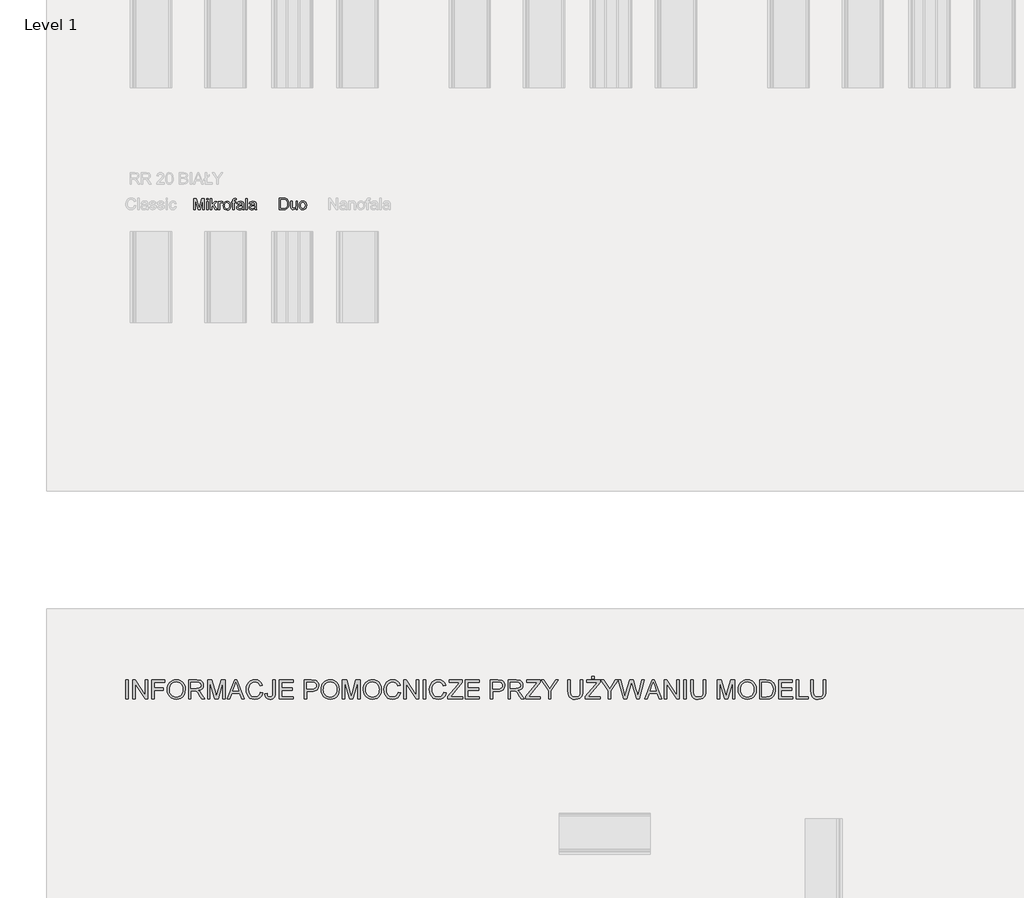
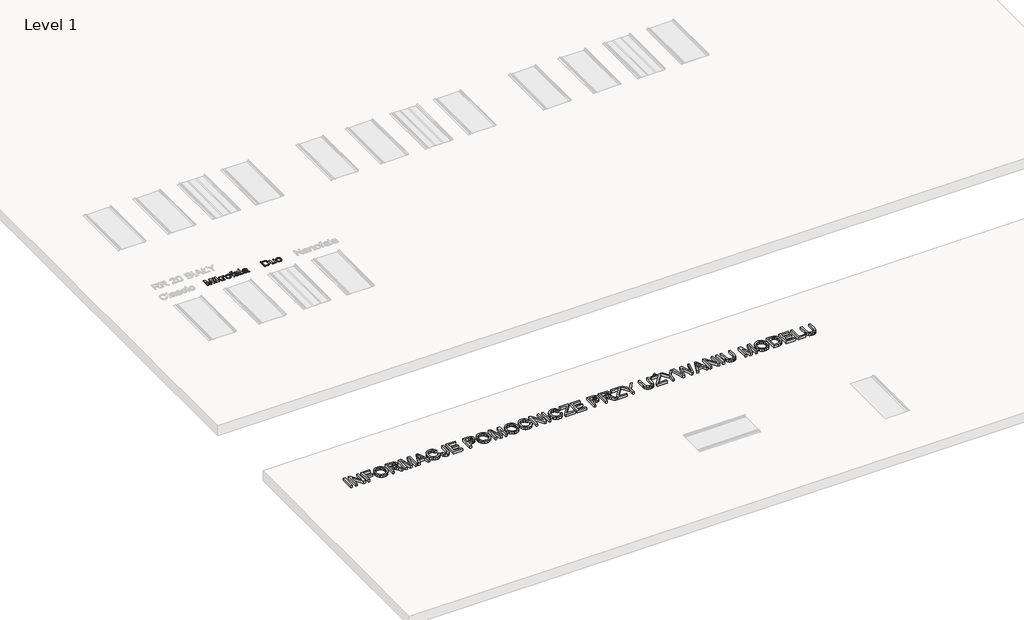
# One storey, part 8 of 22: 3 proxies.
"""IFC4 building model written with IfcOpenShell, lengths in millimetres."""

from ifc_helpers import new_model, si_unit, frame, origin, place, context, project, spatial, polyline, outline, extrude, element, save

model = new_model("IFC4")

# Units and contexts
model_context = context("Model", 3, world=origin())
ifc_project = project(units=[si_unit("LENGTHUNIT", "METRE", prefix="MILLI")], contexts=[model_context])

# Site, building, storey
site = spatial("IfcSite", under=ifc_project)
building = spatial("IfcBuilding", under=site)
storey = spatial("IfcBuildingStorey", under=building, Name="Level 1", Elevation=0.0)

# Proxies
placement = place(None, origin())
element("IfcBuildingElementProxy", 1, Name="150", ObjectType="150", at=placement, inside=storey, context=model_context, shape_type="SweptSolid", body=[
    extrude(outline(polyline([(-7895.6654959, -8175.281387), (-7895.6654959, -8024.5969218), (-7863.3654568, -8024.5969218), (-7832.4633692, -8130.8044538), (-7826.2093753, -8152.9877381), (-7819.4771347, -8128.9650438), (-7789.1636583, -8024.5969218), (-7756.7532546, -8024.5969218), (-7756.7532546, -8175.281387), (-7775.5888127, -8175.281387), (-7775.5888127, -8043.4324799), (-7813.44387, -8175.281387), (-7838.9380923, -8175.281387), (-7876.8299378, -8043.4324799), (-7876.8299378, -8175.281387), (-7895.6654959, -8175.281387)])), frame((0.0, 0.0, 600.0), z_axis=(0.0, 0.0, 1.0), x_axis=(1.0, 0.0, 0.0)), (0.0, 0.0, 1.0), 10.0),
    extrude(outline(polyline([(-7726.1454726, -8043.4324799), (-7726.1454726, -8024.5969218), (-7707.3099144, -8024.5969218), (-7707.3099144, -8043.4324799), (-7726.1454726, -8043.4324799)])), frame((0.0, 0.0, 600.0), z_axis=(0.0, 0.0, 1.0), x_axis=(1.0, 0.0, 0.0)), (0.0, 0.0, 1.0), 10.0),
    extrude(outline(polyline([(-7726.1454726, -8175.281387), (-7726.1454726, -8064.6224829), (-7707.3099144, -8064.6224829), (-7707.3099144, -8175.281387), (-7726.1454726, -8175.281387)])), frame((0.0, 0.0, 600.0), z_axis=(0.0, 0.0, 1.0), x_axis=(1.0, 0.0, 0.0)), (0.0, 0.0, 1.0), 10.0),
    extrude(outline(polyline([(-7679.0565772, -8175.281387), (-7679.0565772, -8024.5969218), (-7660.221019, -8024.5969218), (-7660.221019, -8105.5677489), (-7617.988166, -8064.6224829), (-7591.9421207, -8064.6224829), (-7634.7267968, -8106.0827837), (-7589.587676, -8175.281387), (-7611.5870193, -8175.281387), (-7648.228066, -8119.1793827), (-7660.221019, -8130.841242), (-7660.221019, -8175.281387), (-7679.0565772, -8175.281387)])), frame((0.0, 0.0, 600.0), z_axis=(0.0, 0.0, 1.0), x_axis=(1.0, 0.0, 0.0)), (0.0, 0.0, 1.0), 10.0),
    extrude(outline(polyline([(-7573.1065626, -8175.281387), (-7573.1065626, -8064.6224829), (-7556.6254492, -8064.6224829), (-7556.6254492, -8080.9932316), (-7544.9268017, -8065.9100698), (-7533.1545779, -8062.2680381), (-7514.2454433, -8068.0805736), (-7520.5362255, -8084.9663572), (-7533.7799773, -8081.1035962), (-7544.4301611, -8084.8192044), (-7551.2175839, -8095.1199003), (-7554.2710044, -8117.1192436), (-7554.2710044, -8175.281387), (-7573.1065626, -8175.281387)])), frame((0.0, 0.0, 600.0), z_axis=(0.0, 0.0, 1.0), x_axis=(1.0, 0.0, 0.0)), (0.0, 0.0, 1.0), 10.0),
    extrude(outline(polyline([(-7507.182109, -8119.9519349), (-7503.1078159, -8093.2712932), (-7490.8849367, -8074.5185085), (-7475.7833808, -8065.3306557), (-7457.7019807, -8062.2680381), (-7437.9145279, -8065.9974418), (-7422.1093977, -8077.185653), (-7411.748921, -8094.9497548), (-7408.2954287, -8118.4068306), (-7409.822139, -8137.4355268), (-7414.4022699, -8151.9208803), (-7421.902464, -8162.7688007), (-7432.1893643, -8170.8851972), (-7444.4076451, -8175.9481731), (-7457.7019807, -8177.6358318), (-7477.7285568, -8173.9202236), (-7493.5152929, -8162.7733992), (-7503.765405, -8144.6368168), (-7507.182109, -8119.9519349)]), holes=[polyline([(-7488.3465509, -8119.9151467), (-7486.1668501, -8136.9618787), (-7479.6277476, -8149.1065831), (-7469.7869042, -8156.376851), (-7457.7019807, -8158.8002736), (-7445.6722394, -8156.3630554), (-7435.8497902, -8149.0514008), (-7429.3106877, -8136.745748), (-7427.1309869, -8119.3265355), (-7429.3244833, -8102.7764443), (-7435.9049725, -8090.7972868), (-7445.7412173, -8083.5270189), (-7457.7019807, -8081.1035962), (-7469.7869042, -8083.5178218), (-7479.6277476, -8090.7604986), (-7486.1668501, -8102.8776118), (-7488.3465509, -8119.9151467)])]), frame((0.0, 0.0, 600.0), z_axis=(0.0, 0.0, 1.0), x_axis=(1.0, 0.0, 0.0)), (0.0, 0.0, 1.0), 10.0),
    extrude(outline(polyline([(-7382.3965363, -8175.281387), (-7382.3965363, -8083.458041), (-7398.8776497, -8083.458041), (-7398.8776497, -8064.6224829), (-7382.3965363, -8064.6224829), (-7382.3965363, -8053.4756584), (-7380.4099735, -8037.7670972), (-7370.7714652, -8026.5466964), (-7351.7887543, -8022.242477), (-7334.6086651, -8024.3026162), (-7337.3677801, -8041.960952), (-7348.2202989, -8041.0780352), (-7360.0844933, -8044.2050321), (-7363.5609781, -8055.8668914), (-7363.5609781, -8064.6224829), (-7342.3709752, -8064.6224829), (-7342.3709752, -8083.458041), (-7363.5609781, -8083.458041), (-7363.5609781, -8175.281387), (-7382.3965363, -8175.281387)])), frame((0.0, 0.0, 600.0), z_axis=(0.0, 0.0, 1.0), x_axis=(1.0, 0.0, 0.0)), (0.0, 0.0, 1.0), 10.0),
    extrude(outline(polyline([(-7255.2565187, -8161.1547184), (-7273.5218598, -8173.9202236), (-7293.7001872, -8177.6358318), (-7309.4409381, -8175.4009487), (-7321.0522136, -8168.6962993), (-7328.2121169, -8158.5151651), (-7330.5987514, -8145.8508274), (-7326.9935078, -8130.9516066), (-7317.5205464, -8120.1358759), (-7304.3319769, -8113.9554584), (-7288.0348045, -8111.1227671), (-7255.3668833, -8104.6480439), (-7255.2565187, -8100.4541892), (-7256.5533028, -8092.0480856), (-7260.4436549, -8086.5482498), (-7269.1440641, -8082.4647596), (-7281.2657758, -8081.1035962), (-7300.3220632, -8084.7272339), (-7309.4087484, -8097.5847096), (-7328.2443066, -8095.2302649), (-7320.0957204, -8076.8361651), (-7303.6881834, -8066.0572226), (-7278.8377546, -8062.2680381), (-7256.0106768, -8065.6157643), (-7243.1164129, -8074.0218678), (-7237.3406656, -8086.8057672), (-7236.4209606, -8103.2868806), (-7236.4209606, -8126.7209636), (-7235.4644674, -8159.4440671), (-7231.7120711, -8175.281387), (-7250.5476292, -8175.281387), (-7255.2565187, -8161.1547184)]), holes=[polyline([(-7255.2565187, -8123.4836021), (-7285.6435715, -8129.2593494), (-7301.8487734, -8132.31277), (-7309.1880192, -8137.2791769), (-7311.7631932, -8144.5264522), (-7306.1529928, -8154.7167835), (-7289.6902735, -8158.8002736), (-7270.6339861, -8154.2937192), (-7258.3467275, -8143.386018), (-7255.3668833, -8128.817891), (-7255.2565187, -8123.4836021)])]), frame((0.0, 0.0, 600.0), z_axis=(0.0, 0.0, 1.0), x_axis=(1.0, 0.0, 0.0)), (0.0, 0.0, 1.0), 10.0),
    extrude(outline(polyline([(-7210.5220681, -8175.281387), (-7210.5220681, -8024.5969218), (-7191.68651, -8024.5969218), (-7191.68651, -8175.281387), (-7210.5220681, -8175.281387)])), frame((0.0, 0.0, 600.0), z_axis=(0.0, 0.0, 1.0), x_axis=(1.0, 0.0, 0.0)), (0.0, 0.0, 1.0), 10.0),
    extrude(outline(polyline([(-7092.7998297, -8161.1547184), (-7111.0651707, -8173.9202236), (-7131.2434982, -8177.6358318), (-7146.984249, -8175.4009487), (-7158.5955245, -8168.6962993), (-7165.7554278, -8158.5151651), (-7168.1420623, -8145.8508274), (-7164.5368187, -8130.9516066), (-7155.0638574, -8120.1358759), (-7141.8752878, -8113.9554584), (-7125.5781154, -8111.1227671), (-7092.9101943, -8104.6480439), (-7092.7998297, -8100.4541892), (-7094.0966137, -8092.0480856), (-7097.9869658, -8086.5482498), (-7106.687375, -8082.4647596), (-7118.8090867, -8081.1035962), (-7137.8653741, -8084.7272339), (-7146.9520594, -8097.5847096), (-7165.7876175, -8095.2302649), (-7157.6390313, -8076.8361651), (-7141.2314943, -8066.0572226), (-7116.3810656, -8062.2680381), (-7093.5539878, -8065.6157643), (-7080.6597238, -8074.0218678), (-7074.8839765, -8086.8057672), (-7073.9642715, -8103.2868806), (-7073.9642715, -8126.7209636), (-7073.0077783, -8159.4440671), (-7069.255382, -8175.281387), (-7088.0909401, -8175.281387), (-7092.7998297, -8161.1547184)]), holes=[polyline([(-7092.7998297, -8123.4836021), (-7123.1868825, -8129.2593494), (-7139.3920844, -8132.31277), (-7146.7313302, -8137.2791769), (-7149.3065041, -8144.5264522), (-7143.6963037, -8154.7167835), (-7127.2335844, -8158.8002736), (-7108.1772971, -8154.2937192), (-7095.8900384, -8143.386018), (-7092.9101943, -8128.817891), (-7092.7998297, -8123.4836021)])]), frame((0.0, 0.0, 600.0), z_axis=(0.0, 0.0, 1.0), x_axis=(1.0, 0.0, 0.0)), (0.0, 0.0, 1.0), 10.0),
])
element("IfcBuildingElementProxy", 2, Name="150", ObjectType="150", at=placement, inside=storey, context=model_context, shape_type="SweptSolid", body=[
    extrude(outline(polyline([(-6767.5807075, -8172.1592468), (-6767.5807075, -8021.4747816), (-6715.5989816, -8021.4747816), (-6688.7068077, -8023.6452853), (-6666.5603116, -8034.4242278), (-6656.1400541, -8045.902146), (-6648.7180349, -8060.1759675), (-6644.2758598, -8076.9697805), (-6642.7951347, -8096.0076738), (-6646.8050485, -8126.4131207), (-6657.1057443, -8148.3572817), (-6670.864531, -8162.0240978), (-6688.8723546, -8169.5840728), (-6713.097384, -8172.1592468), (-6767.5807075, -8172.1592468)]), holes=[polyline([(-6748.7451493, -8153.3236886), (-6715.4150406, -8153.3236886), (-6691.1716171, -8150.6013619), (-6677.1921013, -8142.9126282), (-6665.7325771, -8124.2058287), (-6661.6306929, -8095.7133682), (-6663.6402483, -8075.1855529), (-6669.6689145, -8060.0288147), (-6678.5762573, -8049.6177542), (-6689.2218425, -8043.3269721), (-6715.9300754, -8040.3103397), (-6748.7451493, -8040.3103397), (-6748.7451493, -8153.3236886)])]), frame((0.0, 0.0, 600.0), z_axis=(0.0, 0.0, 1.0), x_axis=(1.0, 0.0, 0.0)), (0.0, 0.0, 1.0), 10.0),
    extrude(outline(polyline([(-6548.617344, -8172.1592468), (-6548.617344, -8153.1397476), (-6563.369412, -8169.1702056), (-6582.6096403, -8174.5136916), (-6600.3231584, -8170.7612952), (-6612.5368406, -8161.3435161), (-6618.1470411, -8147.4743649), (-6619.250687, -8129.9631819), (-6619.250687, -8061.5003426), (-6600.4151289, -8061.5003426), (-6600.4151289, -8121.0972259), (-6599.2746947, -8140.300666), (-6591.8250843, -8151.5762492), (-6577.7903862, -8155.6781334), (-6562.0634309, -8151.4842787), (-6551.6707645, -8140.0615427), (-6548.617344, -8119.0738749), (-6548.617344, -8061.5003426), (-6529.7817858, -8061.5003426), (-6529.7817858, -8172.1592468), (-6548.617344, -8172.1592468)])), frame((0.0, 0.0, 600.0), z_axis=(0.0, 0.0, 1.0), x_axis=(1.0, 0.0, 0.0)), (0.0, 0.0, 1.0), 10.0),
    extrude(outline(polyline([(-6508.5917829, -8116.8297947), (-6504.5174898, -8090.149153), (-6492.2946105, -8071.3963683), (-6477.1930546, -8062.2085155), (-6459.1116545, -8059.1458979), (-6439.3242017, -8062.8753016), (-6423.5190715, -8074.0635128), (-6413.1585948, -8091.8276146), (-6409.7051026, -8115.2846903), (-6411.2318129, -8134.3133865), (-6415.8119437, -8148.7987401), (-6423.3121379, -8159.6466604), (-6433.5990382, -8167.7630569), (-6445.8173189, -8172.8260329), (-6459.1116545, -8174.5136916), (-6479.1382307, -8170.7980834), (-6494.9249668, -8159.651259), (-6505.1750789, -8141.5146766), (-6508.5917829, -8116.8297947)]), holes=[polyline([(-6489.7562247, -8116.7930065), (-6487.5765239, -8133.8397385), (-6481.0374215, -8145.9844428), (-6471.1965781, -8153.2547108), (-6459.1116545, -8155.6781334), (-6447.0819133, -8153.2409152), (-6437.259464, -8145.9292605), (-6430.7203616, -8133.6236078), (-6428.5406607, -8116.2043953), (-6430.7341571, -8099.6543041), (-6437.3146463, -8087.6751466), (-6447.1508912, -8080.4048787), (-6459.1116545, -8077.981456), (-6471.1965781, -8080.3956816), (-6481.0374215, -8087.6383584), (-6487.5765239, -8099.7554716), (-6489.7562247, -8116.7930065)])]), frame((0.0, 0.0, 600.0), z_axis=(0.0, 0.0, 1.0), x_axis=(1.0, 0.0, 0.0)), (0.0, 0.0, 1.0), 10.0),
])
element("IfcBuildingElementProxy", 3, Name="250", ObjectType="250", at=placement, inside=storey, context=model_context, shape_type="SweptSolid", body=[
    extrude(outline(polyline([(-8793.2713947, -14626.8895255), (-8793.2713947, -14375.7487501), (-8761.8787978, -14375.7487501), (-8761.8787978, -14626.8895255), (-8793.2713947, -14626.8895255)])), frame((0.0, 0.0, 600.0), z_axis=(0.0, 0.0, 1.0), x_axis=(1.0, 0.0, 0.0)), (0.0, 0.0, 1.0), 50.0),
    extrude(outline(polyline([(-8699.0936039, -14626.8895255), (-8699.0936039, -14375.7487501), (-8665.493715, -14375.7487501), (-8534.2824701, -14574.7115958), (-8534.2824701, -14375.7487501), (-8502.8898732, -14375.7487501), (-8502.8898732, -14626.8895255), (-8536.4897621, -14626.8895255), (-8667.701007, -14427.8653661), (-8667.701007, -14626.8895255), (-8699.0936039, -14626.8895255)])), frame((0.0, 0.0, 600.0), z_axis=(0.0, 0.0, 1.0), x_axis=(1.0, 0.0, 0.0)), (0.0, 0.0, 1.0), 50.0),
    extrude(outline(polyline([(-8447.9528286, -14626.8895255), (-8447.9528286, -14375.7487501), (-8279.2176201, -14375.7487501), (-8279.2176201, -14407.141347), (-8416.5602316, -14407.141347), (-8416.5602316, -14481.6987647), (-8298.8379932, -14481.6987647), (-8298.8379932, -14513.0913616), (-8416.5602316, -14513.0913616), (-8416.5602316, -14626.8895255), (-8447.9528286, -14626.8895255)])), frame((0.0, 0.0, 600.0), z_axis=(0.0, 0.0, 1.0), x_axis=(1.0, 0.0, 0.0)), (0.0, 0.0, 1.0), 50.0),
    extrude(outline(polyline([(-8247.8250232, -14504.6300758), (-8245.7326943, -14475.1726914), (-8239.4557078, -14449.0952229), (-8228.9940635, -14426.3976702), (-8214.3477616, -14407.0800334), (-8196.3943538, -14391.6558143), (-8176.011392, -14380.638515), (-8153.1988762, -14374.0281354), (-8127.9568064, -14371.8246755), (-8095.0160394, -14375.9633479), (-8065.4781809, -14388.3793653), (-8040.9527146, -14408.1990078), (-8023.0491241, -14434.5485557), (-8012.1046348, -14466.1557504), (-8008.4564716, -14501.7483335), (-8012.29624, -14537.8160974), (-8023.8155449, -14569.8678162), (-8042.3782573, -14596.2633494), (-8067.3482477, -14615.3625563), (-8096.6331874, -14626.9508392), (-8128.1407474, -14630.8136001), (-8161.5873521, -14626.5446361), (-8191.2938232, -14613.7377442), (-8215.7579759, -14593.5502197), (-8233.4776254, -14567.1393581), (-8244.2381737, -14536.7507725), (-8247.8250232, -14504.6300758)]), holes=[polyline([(-8216.4324263, -14504.9366441), (-8214.8631796, -14525.7488015), (-8210.1554397, -14544.2233755), (-8202.3092065, -14560.3603659), (-8191.3244801, -14574.1597728), (-8177.9715133, -14585.2115611), (-8163.0205591, -14593.1056956), (-8146.4716175, -14597.8421763), (-8128.3246884, -14599.4210032), (-8109.8673589, -14597.8268479), (-8093.12298, -14593.0443819), (-8078.0915516, -14585.0736054), (-8064.7730737, -14573.9145182), (-8053.8688215, -14559.8238713), (-8046.0800699, -14543.0584158), (-8041.4068189, -14523.6181517), (-8039.8490686, -14501.5030788), (-8042.516213, -14473.7126597), (-8050.5176464, -14449.6930311), (-8063.6464351, -14430.0496654), (-8081.6956455, -14415.3880351), (-8103.4696611, -14406.2599631), (-8127.7728654, -14403.2172724), (-8161.5413669, -14409.0803917), (-8190.2514909, -14426.6697496), (-8201.7056501, -14440.3561095), (-8209.8871924, -14457.9627118), (-8214.7961178, -14479.4895567), (-8216.4324263, -14504.9366441)])]), frame((0.0, 0.0, 600.0), z_axis=(0.0, 0.0, 1.0), x_axis=(1.0, 0.0, 0.0)), (0.0, 0.0, 1.0), 50.0),
    extrude(outline(polyline([(-7965.2916509, -14626.8895255), (-7965.2916509, -14375.7487501), (-7857.0730306, -14375.7487501), (-7827.9873604, -14377.4425401), (-7806.8264815, -14382.5239102), (-7791.3601092, -14391.9049011), (-7779.3579592, -14406.4975535), (-7771.6554299, -14424.5927492), (-7769.0879201, -14444.4813695), (-7773.3415557, -14469.2214337), (-7786.1024624, -14489.7308549), (-7807.7538507, -14504.7680315), (-7838.6789309, -14513.0913616), (-7820.8366541, -14526.5190545), (-7795.3914828, -14558.8313564), (-7753.514249, -14626.8895255), (-7789.9958802, -14626.8895255), (-7822.6760641, -14574.8342232), (-7846.2818254, -14540.375943), (-7862.8671721, -14524.0971647), (-7877.7970497, -14518.1190822), (-7896.0072085, -14517.0154363), (-7933.899054, -14517.0154363), (-7933.899054, -14626.8895255), (-7965.2916509, -14626.8895255)]), holes=[polyline([(-7933.899054, -14485.6228393), (-7863.6335929, -14485.6228393), (-7827.7957552, -14481.1775986), (-7816.0082029, -14475.3987856), (-7807.4396181, -14466.9528281), (-7802.2202923, -14456.7364385), (-7800.480517, -14445.6463292), (-7803.7991192, -14430.3332411), (-7813.7549257, -14417.9938659), (-7830.8844311, -14409.8544767), (-7855.72413, -14407.141347), (-7933.899054, -14407.141347), (-7933.899054, -14485.6228393)])]), frame((0.0, 0.0, 600.0), z_axis=(0.0, 0.0, 1.0), x_axis=(1.0, 0.0, 0.0)), (0.0, 0.0, 1.0), 50.0),
    extrude(outline(polyline([(-7714.1508755, -14626.8895255), (-7714.1508755, -14375.7487501), (-7660.3174769, -14375.7487501), (-7608.8139976, -14552.7613035), (-7598.3906744, -14589.733444), (-7587.1702735, -14549.6956202), (-7536.6478128, -14375.7487501), (-7482.6304732, -14375.7487501), (-7482.6304732, -14626.8895255), (-7514.0230701, -14626.8895255), (-7514.0230701, -14407.141347), (-7577.1148323, -14626.8895255), (-7619.6052027, -14626.8895255), (-7682.7582786, -14407.141347), (-7682.7582786, -14626.8895255), (-7714.1508755, -14626.8895255)])), frame((0.0, 0.0, 600.0), z_axis=(0.0, 0.0, 1.0), x_axis=(1.0, 0.0, 0.0)), (0.0, 0.0, 1.0), 50.0),
    extrude(outline(polyline([(-7456.8787335, -14626.8895255), (-7356.6308899, -14375.7487501), (-7329.8981315, -14375.7487501), (-7229.7116015, -14626.8895255), (-7262.8822948, -14626.8895255), (-7291.5770904, -14548.4080332), (-7395.0745584, -14548.4080332), (-7423.769354, -14626.8895255), (-7456.8787335, -14626.8895255)]), holes=[polyline([(-7383.5475892, -14517.0154363), (-7303.0427459, -14517.0154363), (-7325.7288023, -14455.2725747), (-7343.3258244, -14407.141347), (-7358.9608092, -14449.8769721), (-7383.5475892, -14517.0154363)])]), frame((0.0, 0.0, 600.0), z_axis=(0.0, 0.0, 1.0), x_axis=(1.0, 0.0, 0.0)), (0.0, 0.0, 1.0), 50.0),
    extrude(outline(polyline([(-7019.5896686, -14537.616828), (-6988.1970717, -14545.7102319), (-7002.6824253, -14582.2914978), (-7025.4144669, -14609.0165919), (-7055.2742221, -14625.364348), (-7091.1427167, -14630.8136001), (-7127.55537, -14626.6902561), (-7156.4724277, -14614.320224), (-7178.6373179, -14594.1326995), (-7194.7934688, -14566.5568783), (-7204.6573048, -14534.1372775), (-7207.9452501, -14499.4184142), (-7204.2281091, -14462.7988272), (-7193.0766862, -14431.1763041), (-7175.073461, -14405.5548559), (-7150.8009136, -14386.9384941), (-7122.0141474, -14375.6031302), (-7090.4682663, -14371.8246755), (-7056.0483072, -14376.7144403), (-7027.591102, -14391.3837349), (-7005.985699, -14414.9281826), (-6992.1211463, -14446.4434069), (-7023.5137432, -14453.9236741), (-7034.3969189, -14431.0306841), (-7049.2654829, -14415.3267214), (-7068.3033761, -14406.2446347), (-7091.6945397, -14403.2172724), (-7118.6572242, -14406.5741956), (-7140.806786, -14416.6449652), (-7157.6143947, -14432.3719205), (-7168.5512198, -14452.6974008), (-7174.5522949, -14475.6746971), (-7176.5526532, -14499.3571005), (-7174.1844129, -14528.3584644), (-7167.0796918, -14553.4357538), (-7154.9702428, -14573.6309425), (-7137.5878186, -14587.9860045), (-7116.7488364, -14596.5622535), (-7094.2697136, -14599.4210032), (-7068.0657857, -14595.5275854), (-7046.2304564, -14583.847332), (-7029.7447445, -14564.5028705), (-7019.5896686, -14537.616828)])), frame((0.0, 0.0, 600.0), z_axis=(0.0, 0.0, 1.0), x_axis=(1.0, 0.0, 0.0)), (0.0, 0.0, 1.0), 50.0),
    extrude(outline(polyline([(-6960.7285494, -14556.3788097), (-6929.3359525, -14552.3321078), (-6926.0709998, -14575.1561199), (-6918.6060609, -14589.4268756), (-6907.2017191, -14596.9224713), (-6892.1185573, -14599.4210032), (-6880.5226102, -14598.0031247), (-6870.6281174, -14593.7494891), (-6862.994566, -14587.0509711), (-6858.1814432, -14578.2984453), (-6854.7785348, -14547.1817599), (-6854.7785348, -14375.7487501), (-6823.3859379, -14375.7487501), (-6823.3859379, -14546.6299369), (-6825.2789973, -14574.5813043), (-6830.9581756, -14595.4049581), (-6840.7530337, -14610.6184114), (-6854.9931326, -14621.7391776), (-6872.8737304, -14628.5449945), (-6893.5900853, -14630.8136001), (-6922.6067776, -14626.1307689), (-6943.9286049, -14612.0822752), (-6956.8657884, -14588.7907464), (-6960.7285494, -14556.3788097)])), frame((0.0, 0.0, 600.0), z_axis=(0.0, 0.0, 1.0), x_axis=(1.0, 0.0, 0.0)), (0.0, 0.0, 1.0), 50.0),
    extrude(outline(polyline([(-6768.4488932, -14626.8895255), (-6768.4488932, -14375.7487501), (-6587.9414609, -14375.7487501), (-6587.9414609, -14407.141347), (-6737.0562963, -14407.141347), (-6737.0562963, -14481.6987647), (-6595.7896102, -14481.6987647), (-6595.7896102, -14513.0913616), (-6737.0562963, -14513.0913616), (-6737.0562963, -14595.4969286), (-6584.0173863, -14595.4969286), (-6584.0173863, -14626.8895255), (-6768.4488932, -14626.8895255)])), frame((0.0, 0.0, 600.0), z_axis=(0.0, 0.0, 1.0), x_axis=(1.0, 0.0, 0.0)), (0.0, 0.0, 1.0), 50.0),
    extrude(outline(polyline([(-6438.8266256, -14626.8895255), (-6438.8266256, -14375.7487501), (-6345.7524808, -14375.7487501), (-6308.2285173, -14378.1399831), (-6291.4975507, -14382.6082165), (-6277.7249685, -14389.8815501), (-6266.6348592, -14400.2895449), (-6257.9513113, -14414.1617618), (-6252.3411108, -14430.5248464), (-6250.471044, -14448.4054442), (-6255.5217573, -14478.0046164), (-6270.6738969, -14502.6680384), (-6282.8082546, -14512.3785903), (-6299.0084748, -14519.3146987), (-6319.2745574, -14523.4763638), (-6343.6065025, -14524.8635855), (-6407.4340286, -14524.8635855), (-6407.4340286, -14626.8895255), (-6438.8266256, -14626.8895255)]), holes=[polyline([(-6407.4340286, -14493.4709886), (-6341.7670925, -14493.4709886), (-6313.9306882, -14490.5892463), (-6295.5365884, -14481.9440194), (-6285.2818778, -14468.0718025), (-6281.863641, -14449.5090901), (-6283.8793277, -14435.406947), (-6289.926388, -14423.5120958), (-6299.2537294, -14414.5603006), (-6311.1102596, -14409.2873253), (-6342.5028565, -14407.141347), (-6407.4340286, -14407.141347), (-6407.4340286, -14493.4709886)])]), frame((0.0, 0.0, 600.0), z_axis=(0.0, 0.0, 1.0), x_axis=(1.0, 0.0, 0.0)), (0.0, 0.0, 1.0), 50.0),
    extrude(outline(polyline([(-6219.0784471, -14504.6300758), (-6216.9861183, -14475.1726914), (-6210.7091317, -14449.0952229), (-6200.2474875, -14426.3976702), (-6185.6011855, -14407.0800334), (-6167.6477778, -14391.6558143), (-6147.264816, -14380.638515), (-6124.4523002, -14374.0281354), (-6099.2102303, -14371.8246755), (-6066.2694634, -14375.9633479), (-6036.7316048, -14388.3793653), (-6012.2061385, -14408.1990078), (-5994.3025481, -14434.5485557), (-5983.3580587, -14466.1557504), (-5979.7098956, -14501.7483335), (-5983.5496639, -14537.8160974), (-5995.0689689, -14569.8678162), (-6013.6316812, -14596.2633494), (-6038.6016716, -14615.3625563), (-6067.8866113, -14626.9508392), (-6099.3941713, -14630.8136001), (-6132.8407761, -14626.5446361), (-6162.5472472, -14613.7377442), (-6187.0113999, -14593.5502197), (-6204.7310493, -14567.1393581), (-6215.4915977, -14536.7507725), (-6219.0784471, -14504.6300758)]), holes=[polyline([(-6187.6858502, -14504.9366441), (-6186.1166035, -14525.7488015), (-6181.4088636, -14544.2233755), (-6173.5626305, -14560.3603659), (-6162.577904, -14574.1597728), (-6149.2249372, -14585.2115611), (-6134.273983, -14593.1056956), (-6117.7250414, -14597.8421763), (-6099.5781123, -14599.4210032), (-6081.1207829, -14597.8268479), (-6064.3764039, -14593.0443819), (-6049.3449755, -14585.0736054), (-6036.0264977, -14573.9145182), (-6025.1222454, -14559.8238713), (-6017.3334938, -14543.0584158), (-6012.6602428, -14523.6181517), (-6011.1024925, -14501.5030788), (-6013.769637, -14473.7126597), (-6021.7710704, -14449.6930311), (-6034.8998591, -14430.0496654), (-6052.9490695, -14415.3880351), (-6074.723085, -14406.2599631), (-6099.0262893, -14403.2172724), (-6132.7947908, -14409.0803917), (-6161.5049149, -14426.6697496), (-6172.9590741, -14440.3561095), (-6181.1406164, -14457.9627118), (-6186.0495417, -14479.4895567), (-6187.6858502, -14504.9366441)])]), frame((0.0, 0.0, 600.0), z_axis=(0.0, 0.0, 1.0), x_axis=(1.0, 0.0, 0.0)), (0.0, 0.0, 1.0), 50.0),
    extrude(outline(polyline([(-5936.5450748, -14626.8895255), (-5936.5450748, -14375.7487501), (-5882.7116762, -14375.7487501), (-5831.2081969, -14552.7613035), (-5820.7848737, -14589.733444), (-5809.5644728, -14549.6956202), (-5759.0420121, -14375.7487501), (-5705.0246725, -14375.7487501), (-5705.0246725, -14626.8895255), (-5736.4172694, -14626.8895255), (-5736.4172694, -14407.141347), (-5799.5090316, -14626.8895255), (-5841.9994021, -14626.8895255), (-5905.1524779, -14407.141347), (-5905.1524779, -14626.8895255), (-5936.5450748, -14626.8895255)])), frame((0.0, 0.0, 600.0), z_axis=(0.0, 0.0, 1.0), x_axis=(1.0, 0.0, 0.0)), (0.0, 0.0, 1.0), 50.0),
    extrude(outline(polyline([(-5661.8598517, -14504.6300758), (-5659.7675229, -14475.1726914), (-5653.4905364, -14449.0952229), (-5643.0288921, -14426.3976702), (-5628.3825902, -14407.0800334), (-5610.4291824, -14391.6558143), (-5590.0462206, -14380.638515), (-5567.2337048, -14374.0281354), (-5541.991635, -14371.8246755), (-5509.050868, -14375.9633479), (-5479.5130095, -14388.3793653), (-5454.9875431, -14408.1990078), (-5437.0839527, -14434.5485557), (-5426.1394633, -14466.1557504), (-5422.4913002, -14501.7483335), (-5426.3310685, -14537.8160974), (-5437.8503735, -14569.8678162), (-5456.4130859, -14596.2633494), (-5481.3830763, -14615.3625563), (-5510.6680159, -14626.9508392), (-5542.175576, -14630.8136001), (-5575.6221807, -14626.5446361), (-5605.3286518, -14613.7377442), (-5629.7928045, -14593.5502197), (-5647.5124539, -14567.1393581), (-5658.2730023, -14536.7507725), (-5661.8598517, -14504.6300758)]), holes=[polyline([(-5630.4672548, -14504.9366441), (-5628.8980082, -14525.7488015), (-5624.1902683, -14544.2233755), (-5616.3440351, -14560.3603659), (-5605.3593087, -14574.1597728), (-5592.0063419, -14585.2115611), (-5577.0553876, -14593.1056956), (-5560.506446, -14597.8421763), (-5542.359517, -14599.4210032), (-5523.9021875, -14597.8268479), (-5507.1578086, -14593.0443819), (-5492.1263802, -14585.0736054), (-5478.8079023, -14573.9145182), (-5467.90365, -14559.8238713), (-5460.1148984, -14543.0584158), (-5455.4416475, -14523.6181517), (-5453.8838971, -14501.5030788), (-5456.5510416, -14473.7126597), (-5464.552475, -14449.6930311), (-5477.6812637, -14430.0496654), (-5495.7304741, -14415.3880351), (-5517.5044897, -14406.2599631), (-5541.807694, -14403.2172724), (-5575.5761955, -14409.0803917), (-5604.2863195, -14426.6697496), (-5615.7404787, -14440.3561095), (-5623.922021, -14457.9627118), (-5628.8309464, -14479.4895567), (-5630.4672548, -14504.9366441)])]), frame((0.0, 0.0, 600.0), z_axis=(0.0, 0.0, 1.0), x_axis=(1.0, 0.0, 0.0)), (0.0, 0.0, 1.0), 50.0),
    extrude(outline(polyline([(-5202.7431218, -14537.616828), (-5171.3505248, -14545.7102319), (-5185.8358784, -14582.2914978), (-5208.56792, -14609.0165919), (-5238.4276753, -14625.364348), (-5274.2961698, -14630.8136001), (-5310.7088231, -14626.6902561), (-5339.6258808, -14614.320224), (-5361.790771, -14594.1326995), (-5377.946922, -14566.5568783), (-5387.810758, -14534.1372775), (-5391.0987033, -14499.4184142), (-5387.3815623, -14462.7988272), (-5376.2301393, -14431.1763041), (-5358.2269142, -14405.5548559), (-5333.9543667, -14386.9384941), (-5305.1676006, -14375.6031302), (-5273.6217195, -14371.8246755), (-5239.2017603, -14376.7144403), (-5210.7445552, -14391.3837349), (-5189.1391522, -14414.9281826), (-5175.2745995, -14446.4434069), (-5206.6671964, -14453.9236741), (-5217.5503721, -14431.0306841), (-5232.418936, -14415.3267214), (-5251.4568293, -14406.2446347), (-5274.8479928, -14403.2172724), (-5301.8106774, -14406.5741956), (-5323.9602392, -14416.6449652), (-5340.7678478, -14432.3719205), (-5351.704673, -14452.6974008), (-5357.705748, -14475.6746971), (-5359.7061064, -14499.3571005), (-5357.337866, -14528.3584644), (-5350.233145, -14553.4357538), (-5338.123696, -14573.6309425), (-5320.7412717, -14587.9860045), (-5299.9022895, -14596.5622535), (-5277.4231668, -14599.4210032), (-5251.2192388, -14595.5275854), (-5229.3839096, -14583.847332), (-5212.8981977, -14564.5028705), (-5202.7431218, -14537.616828)])), frame((0.0, 0.0, 600.0), z_axis=(0.0, 0.0, 1.0), x_axis=(1.0, 0.0, 0.0)), (0.0, 0.0, 1.0), 50.0),
    extrude(outline(polyline([(-5128.1857041, -14626.8895255), (-5128.1857041, -14375.7487501), (-5094.5858152, -14375.7487501), (-4963.3745702, -14574.7115958), (-4963.3745702, -14375.7487501), (-4931.9819733, -14375.7487501), (-4931.9819733, -14626.8895255), (-4965.5818622, -14626.8895255), (-5096.7931072, -14427.8653661), (-5096.7931072, -14626.8895255), (-5128.1857041, -14626.8895255)])), frame((0.0, 0.0, 600.0), z_axis=(0.0, 0.0, 1.0), x_axis=(1.0, 0.0, 0.0)), (0.0, 0.0, 1.0), 50.0),
    extrude(outline(polyline([(-4873.1208541, -14626.8895255), (-4873.1208541, -14375.7487501), (-4841.7282572, -14375.7487501), (-4841.7282572, -14626.8895255), (-4873.1208541, -14626.8895255)])), frame((0.0, 0.0, 600.0), z_axis=(0.0, 0.0, 1.0), x_axis=(1.0, 0.0, 0.0)), (0.0, 0.0, 1.0), 50.0),
    extrude(outline(polyline([(-4602.3597056, -14537.616828), (-4570.9671087, -14545.7102319), (-4585.4524623, -14582.2914978), (-4608.1845039, -14609.0165919), (-4638.0442592, -14625.364348), (-4673.9127537, -14630.8136001), (-4710.325407, -14626.6902561), (-4739.2424647, -14614.320224), (-4761.4073549, -14594.1326995), (-4777.5635058, -14566.5568783), (-4787.4273418, -14534.1372775), (-4790.7152872, -14499.4184142), (-4786.9981462, -14462.7988272), (-4775.8467232, -14431.1763041), (-4757.8434981, -14405.5548559), (-4733.5709506, -14386.9384941), (-4704.7841845, -14375.6031302), (-4673.2383034, -14371.8246755), (-4638.8183442, -14376.7144403), (-4610.361139, -14391.3837349), (-4588.755736, -14414.9281826), (-4574.8911833, -14446.4434069), (-4606.2837803, -14453.9236741), (-4617.1669559, -14431.0306841), (-4632.0355199, -14415.3267214), (-4651.0734132, -14406.2446347), (-4674.4645767, -14403.2172724), (-4701.4272613, -14406.5741956), (-4723.576823, -14416.6449652), (-4740.3844317, -14432.3719205), (-4751.3212569, -14452.6974008), (-4757.3223319, -14475.6746971), (-4759.3226902, -14499.3571005), (-4756.9544499, -14528.3584644), (-4749.8497289, -14553.4357538), (-4737.7402799, -14573.6309425), (-4720.3578556, -14587.9860045), (-4699.5188734, -14596.5622535), (-4677.0397507, -14599.4210032), (-4650.8358227, -14595.5275854), (-4629.0004935, -14583.847332), (-4612.5147815, -14564.5028705), (-4602.3597056, -14537.616828)])), frame((0.0, 0.0, 600.0), z_axis=(0.0, 0.0, 1.0), x_axis=(1.0, 0.0, 0.0)), (0.0, 0.0, 1.0), 50.0),
    extrude(outline(polyline([(-4547.422661, -14626.8895255), (-4547.422661, -14594.3319689), (-4419.0318447, -14437.0011023), (-4394.6290057, -14407.141347), (-4531.7263626, -14407.141347), (-4531.7263626, -14375.7487501), (-4355.1430049, -14375.7487501), (-4355.1430049, -14407.141347), (-4495.673927, -14579.3101208), (-4508.9176789, -14595.4969286), (-4351.2189303, -14595.4969286), (-4351.2189303, -14626.8895255), (-4547.422661, -14626.8895255)])), frame((0.0, 0.0, 600.0), z_axis=(0.0, 0.0, 1.0), x_axis=(1.0, 0.0, 0.0)), (0.0, 0.0, 1.0), 50.0),
    extrude(outline(polyline([(-4315.9022587, -14626.8895255), (-4315.9022587, -14375.7487501), (-4135.3948264, -14375.7487501), (-4135.3948264, -14407.141347), (-4284.5096618, -14407.141347), (-4284.5096618, -14481.6987647), (-4143.2429757, -14481.6987647), (-4143.2429757, -14513.0913616), (-4284.5096618, -14513.0913616), (-4284.5096618, -14595.4969286), (-4131.4707518, -14595.4969286), (-4131.4707518, -14626.8895255), (-4315.9022587, -14626.8895255)])), frame((0.0, 0.0, 600.0), z_axis=(0.0, 0.0, 1.0), x_axis=(1.0, 0.0, 0.0)), (0.0, 0.0, 1.0), 50.0),
    extrude(outline(polyline([(-3986.279991, -14626.8895255), (-3986.279991, -14375.7487501), (-3893.2058463, -14375.7487501), (-3855.6818828, -14378.1399831), (-3838.9509162, -14382.6082165), (-3825.178334, -14389.8815501), (-3814.0882247, -14400.2895449), (-3805.4046768, -14414.1617618), (-3799.7944763, -14430.5248464), (-3797.9244095, -14448.4054442), (-3802.9751227, -14478.0046164), (-3818.1272624, -14502.6680384), (-3830.2616201, -14512.3785903), (-3846.4618403, -14519.3146987), (-3866.7279229, -14523.4763638), (-3891.059868, -14524.8635855), (-3954.8873941, -14524.8635855), (-3954.8873941, -14626.8895255), (-3986.279991, -14626.8895255)]), holes=[polyline([(-3954.8873941, -14493.4709886), (-3889.220458, -14493.4709886), (-3861.3840537, -14490.5892463), (-3842.9899539, -14481.9440194), (-3832.7352433, -14468.0718025), (-3829.3170064, -14449.5090901), (-3831.3326932, -14435.406947), (-3837.3797535, -14423.5120958), (-3846.7070949, -14414.5603006), (-3858.5636251, -14409.2873253), (-3889.956222, -14407.141347), (-3954.8873941, -14407.141347), (-3954.8873941, -14493.4709886)])]), frame((0.0, 0.0, 600.0), z_axis=(0.0, 0.0, 1.0), x_axis=(1.0, 0.0, 0.0)), (0.0, 0.0, 1.0), 50.0),
    extrude(outline(polyline([(-3754.7595887, -14626.8895255), (-3754.7595887, -14375.7487501), (-3646.5409685, -14375.7487501), (-3617.4552983, -14377.4425401), (-3596.2944193, -14382.5239102), (-3580.8280471, -14391.9049011), (-3568.825897, -14406.4975535), (-3561.1233677, -14424.5927492), (-3558.555858, -14444.4813695), (-3562.8094936, -14469.2214337), (-3575.5704003, -14489.7308549), (-3597.2217885, -14504.7680315), (-3628.1468687, -14513.0913616), (-3610.304592, -14526.5190545), (-3584.8594206, -14558.8313564), (-3542.9821869, -14626.8895255), (-3579.463818, -14626.8895255), (-3612.144002, -14574.8342232), (-3635.7497633, -14540.375943), (-3652.3351099, -14524.0971647), (-3667.2649876, -14518.1190822), (-3685.4751463, -14517.0154363), (-3723.3669918, -14517.0154363), (-3723.3669918, -14626.8895255), (-3754.7595887, -14626.8895255)]), holes=[polyline([(-3723.3669918, -14485.6228393), (-3653.1015307, -14485.6228393), (-3617.2636931, -14481.1775986), (-3605.4761408, -14475.3987856), (-3596.907556, -14466.9528281), (-3591.6882302, -14456.7364385), (-3589.9484549, -14445.6463292), (-3593.2670571, -14430.3332411), (-3603.2228636, -14417.9938659), (-3620.352369, -14409.8544767), (-3645.1920679, -14407.141347), (-3723.3669918, -14407.141347), (-3723.3669918, -14485.6228393)])]), frame((0.0, 0.0, 600.0), z_axis=(0.0, 0.0, 1.0), x_axis=(1.0, 0.0, 0.0)), (0.0, 0.0, 1.0), 50.0),
    extrude(outline(polyline([(-3523.2391865, -14626.8895255), (-3523.2391865, -14594.3319689), (-3394.8483701, -14437.0011023), (-3370.4455311, -14407.141347), (-3507.542888, -14407.141347), (-3507.542888, -14375.7487501), (-3330.9595303, -14375.7487501), (-3330.9595303, -14407.141347), (-3471.4904525, -14579.3101208), (-3484.7342043, -14595.4969286), (-3327.0354557, -14595.4969286), (-3327.0354557, -14626.8895255), (-3523.2391865, -14626.8895255)])), frame((0.0, 0.0, 600.0), z_axis=(0.0, 0.0, 1.0), x_axis=(1.0, 0.0, 0.0)), (0.0, 0.0, 1.0), 50.0),
    extrude(outline(polyline([(-3221.0854411, -14626.8895255), (-3221.0854411, -14520.5103152), (-3319.1873065, -14375.7487501), (-3282.2151659, -14375.7487501), (-3229.8532953, -14453.0652828), (-3203.0592233, -14492.5512836), (-3176.142524, -14450.2448541), (-3128.624433, -14375.7487501), (-3091.5909788, -14375.7487501), (-3189.6928442, -14520.5103152), (-3189.6928442, -14626.8895255), (-3221.0854411, -14626.8895255)])), frame((0.0, 0.0, 600.0), z_axis=(0.0, 0.0, 1.0), x_axis=(1.0, 0.0, 0.0)), (0.0, 0.0, 1.0), 50.0),
    extrude(outline(polyline([(-2801.2094573, -14375.7487501), (-2769.8168603, -14375.7487501), (-2769.8168603, -14520.6329425), (-2771.9475102, -14554.5623924), (-2778.3394599, -14580.6896783), (-2790.2802963, -14600.8465459), (-2809.0576065, -14616.8647411), (-2834.7173756, -14627.3263854), (-2867.3055891, -14630.8136001), (-2899.1810311, -14627.7785736), (-2924.6645235, -14618.6734943), (-2943.7637304, -14603.8125945), (-2956.486316, -14583.5101069), (-2963.6370223, -14556.279175), (-2966.0205911, -14520.6329425), (-2966.0205911, -14375.7487501), (-2934.6279942, -14375.7487501), (-2934.6279942, -14519.5292966), (-2933.0798241, -14547.7412471), (-2928.4353139, -14567.3846128), (-2920.0200133, -14580.9885824), (-2907.1594719, -14591.0823446), (-2890.3901842, -14597.3363385), (-2870.248645, -14599.4210032), (-2838.3195535, -14595.2976591), (-2817.0896967, -14582.9276271), (-2810.1420919, -14572.7802154), (-2805.1795171, -14558.8313564), (-2801.2094573, -14519.5292966), (-2801.2094573, -14375.7487501)])), frame((0.0, 0.0, 600.0), z_axis=(0.0, 0.0, 1.0), x_axis=(1.0, 0.0, 0.0)), (0.0, 0.0, 1.0), 50.0),
    extrude(outline(polyline([(-2734.5001888, -14626.8895255), (-2734.5001888, -14594.3319689), (-2606.1093725, -14437.0011023), (-2581.7065335, -14407.141347), (-2718.8038903, -14407.141347), (-2718.8038903, -14375.7487501), (-2542.2205326, -14375.7487501), (-2542.2205326, -14407.141347), (-2682.7514548, -14579.3101208), (-2695.9952066, -14595.4969286), (-2538.296458, -14595.4969286), (-2538.296458, -14626.8895255), (-2734.5001888, -14626.8895255)])), frame((0.0, 0.0, 600.0), z_axis=(0.0, 0.0, 1.0), x_axis=(1.0, 0.0, 0.0)), (0.0, 0.0, 1.0), 50.0),
    extrude(outline(polyline([(-2648.1705473, -14360.0524516), (-2648.1705473, -14328.6598547), (-2616.7779503, -14328.6598547), (-2616.7779503, -14360.0524516), (-2648.1705473, -14360.0524516)])), frame((0.0, 0.0, 600.0), z_axis=(0.0, 0.0, 1.0), x_axis=(1.0, 0.0, 0.0)), (0.0, 0.0, 1.0), 50.0),
    extrude(outline(polyline([(-2432.3464434, -14626.8895255), (-2432.3464434, -14520.5103152), (-2530.4483088, -14375.7487501), (-2493.4761683, -14375.7487501), (-2441.1142976, -14453.0652828), (-2414.3202257, -14492.5512836), (-2387.4035263, -14450.2448541), (-2339.8854353, -14375.7487501), (-2302.8519811, -14375.7487501), (-2400.9538465, -14520.5103152), (-2400.9538465, -14626.8895255), (-2432.3464434, -14626.8895255)])), frame((0.0, 0.0, 600.0), z_axis=(0.0, 0.0, 1.0), x_axis=(1.0, 0.0, 0.0)), (0.0, 0.0, 1.0), 50.0),
    extrude(outline(polyline([(-2230.4405417, -14626.8895255), (-2298.9279065, -14375.7487501), (-2266.5542909, -14375.7487501), (-2226.8230354, -14540.8051386), (-2214.5603023, -14591.7567949), (-2201.4391778, -14546.6912505), (-2151.6524811, -14375.7487501), (-2104.9927814, -14375.7487501), (-2068.8177185, -14499.6636688), (-2053.3206895, -14545.6489182), (-2041.9010192, -14591.7567949), (-2030.006168, -14542.2766666), (-1989.9683442, -14375.7487501), (-1957.533415, -14375.7487501), (-2025.9594661, -14626.8895255), (-2059.559355, -14626.8895255), (-2119.8306885, -14433.1383414), (-2128.2306607, -14406.0990147), (-2137.6729653, -14438.6565713), (-2192.5486962, -14626.8895255), (-2230.4405417, -14626.8895255)])), frame((0.0, 0.0, 600.0), z_axis=(0.0, 0.0, 1.0), x_axis=(1.0, 0.0, 0.0)), (0.0, 0.0, 1.0), 50.0),
    extrude(outline(polyline([(-1955.326123, -14626.8895255), (-1855.0782793, -14375.7487501), (-1828.345521, -14375.7487501), (-1728.158991, -14626.8895255), (-1761.3296842, -14626.8895255), (-1790.0244798, -14548.4080332), (-1893.5219478, -14548.4080332), (-1922.2167434, -14626.8895255), (-1955.326123, -14626.8895255)]), holes=[polyline([(-1881.9949786, -14517.0154363), (-1801.4901354, -14517.0154363), (-1824.1761917, -14455.2725747), (-1841.7732138, -14407.141347), (-1857.4081986, -14449.8769721), (-1881.9949786, -14517.0154363)])]), frame((0.0, 0.0, 600.0), z_axis=(0.0, 0.0, 1.0), x_axis=(1.0, 0.0, 0.0)), (0.0, 0.0, 1.0), 50.0),
    extrude(outline(polyline([(-1694.6204158, -14626.8895255), (-1694.6204158, -14375.7487501), (-1661.0205269, -14375.7487501), (-1529.8092819, -14574.7115958), (-1529.8092819, -14375.7487501), (-1498.416685, -14375.7487501), (-1498.416685, -14626.8895255), (-1532.0165739, -14626.8895255), (-1663.2278188, -14427.8653661), (-1663.2278188, -14626.8895255), (-1694.6204158, -14626.8895255)])), frame((0.0, 0.0, 600.0), z_axis=(0.0, 0.0, 1.0), x_axis=(1.0, 0.0, 0.0)), (0.0, 0.0, 1.0), 50.0),
    extrude(outline(polyline([(-1439.5555658, -14626.8895255), (-1439.5555658, -14375.7487501), (-1408.1629688, -14375.7487501), (-1408.1629688, -14626.8895255), (-1439.5555658, -14626.8895255)])), frame((0.0, 0.0, 600.0), z_axis=(0.0, 0.0, 1.0), x_axis=(1.0, 0.0, 0.0)), (0.0, 0.0, 1.0), 50.0),
    extrude(outline(polyline([(-1180.5666412, -14375.7487501), (-1149.1740442, -14375.7487501), (-1149.1740442, -14520.6329425), (-1151.3046941, -14554.5623924), (-1157.6966438, -14580.6896783), (-1169.6374802, -14600.8465459), (-1188.4147904, -14616.8647411), (-1214.0745596, -14627.3263854), (-1246.662773, -14630.8136001), (-1278.538215, -14627.7785736), (-1304.0217074, -14618.6734943), (-1323.1209143, -14603.8125945), (-1335.8435, -14583.5101069), (-1342.9942062, -14556.279175), (-1345.377775, -14520.6329425), (-1345.377775, -14375.7487501), (-1313.9851781, -14375.7487501), (-1313.9851781, -14519.5292966), (-1312.437008, -14547.7412471), (-1307.7924978, -14567.3846128), (-1299.3771972, -14580.9885824), (-1286.5166558, -14591.0823446), (-1269.7473682, -14597.3363385), (-1249.6058289, -14599.4210032), (-1217.6767374, -14595.2976591), (-1196.4468806, -14582.9276271), (-1189.4992759, -14572.7802154), (-1184.536701, -14558.8313564), (-1180.5666412, -14519.5292966), (-1180.5666412, -14375.7487501)])), frame((0.0, 0.0, 600.0), z_axis=(0.0, 0.0, 1.0), x_axis=(1.0, 0.0, 0.0)), (0.0, 0.0, 1.0), 50.0),
    extrude(outline(polyline([(-996.1351343, -14626.8895255), (-996.1351343, -14375.7487501), (-942.3017356, -14375.7487501), (-890.7982563, -14552.7613035), (-880.3749331, -14589.733444), (-869.1545322, -14549.6956202), (-818.6320716, -14375.7487501), (-764.614732, -14375.7487501), (-764.614732, -14626.8895255), (-796.0073289, -14626.8895255), (-796.0073289, -14407.141347), (-859.099091, -14626.8895255), (-901.5894615, -14626.8895255), (-964.7425373, -14407.141347), (-964.7425373, -14626.8895255), (-996.1351343, -14626.8895255)])), frame((0.0, 0.0, 600.0), z_axis=(0.0, 0.0, 1.0), x_axis=(1.0, 0.0, 0.0)), (0.0, 0.0, 1.0), 50.0),
    extrude(outline(polyline([(-721.4499112, -14504.6300758), (-719.3575823, -14475.1726914), (-713.0805958, -14449.0952229), (-702.6189516, -14426.3976702), (-687.9726496, -14407.0800334), (-670.0192418, -14391.6558143), (-649.63628, -14380.638515), (-626.8237642, -14374.0281354), (-601.5816944, -14371.8246755), (-568.6409274, -14375.9633479), (-539.1030689, -14388.3793653), (-514.5776026, -14408.1990078), (-496.6740121, -14434.5485557), (-485.7295228, -14466.1557504), (-482.0813597, -14501.7483335), (-485.921128, -14537.8160974), (-497.440433, -14569.8678162), (-516.0031453, -14596.2633494), (-540.9731357, -14615.3625563), (-570.2580754, -14626.9508392), (-601.7656354, -14630.8136001), (-635.2122401, -14626.5446361), (-664.9187113, -14613.7377442), (-689.3828639, -14593.5502197), (-707.1025134, -14567.1393581), (-717.8630617, -14536.7507725), (-721.4499112, -14504.6300758)]), holes=[polyline([(-690.0573143, -14504.9366441), (-688.4880676, -14525.7488015), (-683.7803277, -14544.2233755), (-675.9340945, -14560.3603659), (-664.9493681, -14574.1597728), (-651.5964013, -14585.2115611), (-636.6454471, -14593.1056956), (-620.0965055, -14597.8421763), (-601.9495764, -14599.4210032), (-583.4922469, -14597.8268479), (-566.747868, -14593.0443819), (-551.7164396, -14585.0736054), (-538.3979618, -14573.9145182), (-527.4937095, -14559.8238713), (-519.7049579, -14543.0584158), (-515.0317069, -14523.6181517), (-513.4739566, -14501.5030788), (-516.141101, -14473.7126597), (-524.1425344, -14449.6930311), (-537.2713231, -14430.0496654), (-555.3205335, -14415.3880351), (-577.0945491, -14406.2599631), (-601.3977534, -14403.2172724), (-635.1662549, -14409.0803917), (-663.8763789, -14426.6697496), (-675.3305381, -14440.3561095), (-683.5120804, -14457.9627118), (-688.4210058, -14479.4895567), (-690.0573143, -14504.9366441)])]), frame((0.0, 0.0, 600.0), z_axis=(0.0, 0.0, 1.0), x_axis=(1.0, 0.0, 0.0)), (0.0, 0.0, 1.0), 50.0),
    extrude(outline(polyline([(-438.9165389, -14626.8895255), (-438.9165389, -14375.7487501), (-352.280329, -14375.7487501), (-307.4600393, -14379.3662564), (-287.4411274, -14386.3406859), (-270.5492124, -14397.3311605), (-253.1821166, -14416.4610242), (-240.8120845, -14440.2507266), (-233.4084593, -14468.2404151), (-230.9405843, -14499.9702371), (-232.6113817, -14526.9252575), (-237.6237739, -14550.645982), (-245.2573253, -14570.8411707), (-254.7916003, -14587.2195837), (-277.7229113, -14609.9976105), (-307.7359508, -14622.5975689), (-348.1109997, -14626.8895255), (-438.9165389, -14626.8895255)]), holes=[polyline([(-407.523942, -14595.4969286), (-351.9737607, -14595.4969286), (-311.5680549, -14590.9597173), (-288.2688619, -14578.1451611), (-277.3626935, -14564.5565199), (-269.1696549, -14546.967162), (-264.0422996, -14525.3004454), (-262.3331812, -14499.4797278), (-265.6824402, -14465.2667023), (-275.7302172, -14440.0054719), (-290.5757885, -14422.6537045), (-308.3184306, -14412.1690676), (-326.3753052, -14408.3982772), (-352.832152, -14407.141347), (-407.523942, -14407.141347), (-407.523942, -14595.4969286)])]), frame((0.0, 0.0, 600.0), z_axis=(0.0, 0.0, 1.0), x_axis=(1.0, 0.0, 0.0)), (0.0, 0.0, 1.0), 50.0),
    extrude(outline(polyline([(-187.7757635, -14626.8895255), (-187.7757635, -14375.7487501), (-7.2683312, -14375.7487501), (-7.2683312, -14407.141347), (-156.3831666, -14407.141347), (-156.3831666, -14481.6987647), (-15.1164804, -14481.6987647), (-15.1164804, -14513.0913616), (-156.3831666, -14513.0913616), (-156.3831666, -14595.4969286), (-3.3442566, -14595.4969286), (-3.3442566, -14626.8895255), (-187.7757635, -14626.8895255)])), frame((0.0, 0.0, 600.0), z_axis=(0.0, 0.0, 1.0), x_axis=(1.0, 0.0, 0.0)), (0.0, 0.0, 1.0), 50.0),
    extrude(outline(polyline([(43.7446388, -14626.8895255), (43.7446388, -14375.7487501), (75.1372357, -14375.7487501), (75.1372357, -14595.4969286), (200.7076234, -14595.4969286), (200.7076234, -14626.8895255), (43.7446388, -14626.8895255)])), frame((0.0, 0.0, 600.0), z_axis=(0.0, 0.0, 1.0), x_axis=(1.0, 0.0, 0.0)), (0.0, 0.0, 1.0), 50.0),
    extrude(outline(polyline([(400.8354288, -14375.7487501), (432.2280257, -14375.7487501), (432.2280257, -14520.6329425), (430.0973758, -14554.5623924), (423.7054261, -14580.6896783), (411.7645897, -14600.8465459), (392.9872795, -14616.8647411), (367.3275104, -14627.3263854), (334.739297, -14630.8136001), (302.8638549, -14627.7785736), (277.3803626, -14618.6734943), (258.2811556, -14603.8125945), (245.55857, -14583.5101069), (238.4078637, -14556.279175), (236.0242949, -14520.6329425), (236.0242949, -14375.7487501), (267.4168919, -14375.7487501), (267.4168919, -14519.5292966), (268.9650619, -14547.7412471), (273.6095721, -14567.3846128), (282.0248727, -14580.9885824), (294.8854142, -14591.0823446), (311.6547018, -14597.3363385), (331.796241, -14599.4210032), (363.7253325, -14595.2976591), (384.9551893, -14582.9276271), (391.9027941, -14572.7802154), (396.8653689, -14558.8313564), (400.8354288, -14519.5292966), (400.8354288, -14375.7487501)])), frame((0.0, 0.0, 600.0), z_axis=(0.0, 0.0, 1.0), x_axis=(1.0, 0.0, 0.0)), (0.0, 0.0, 1.0), 50.0),
])

save(model, "model.ifc")
